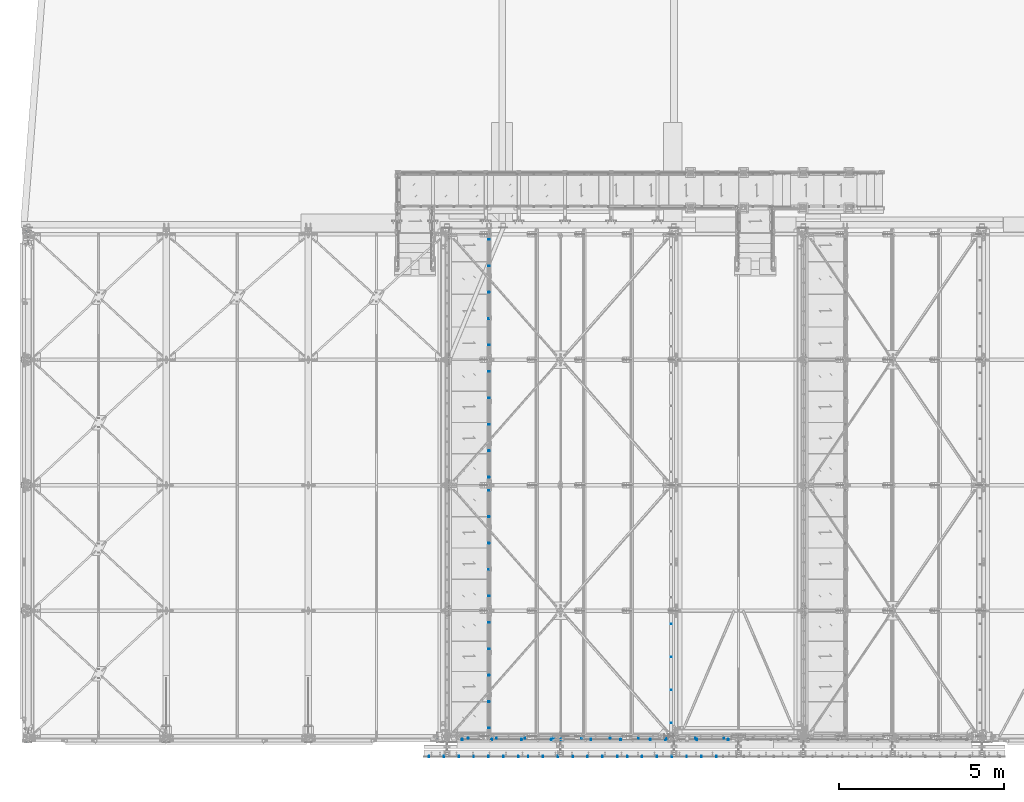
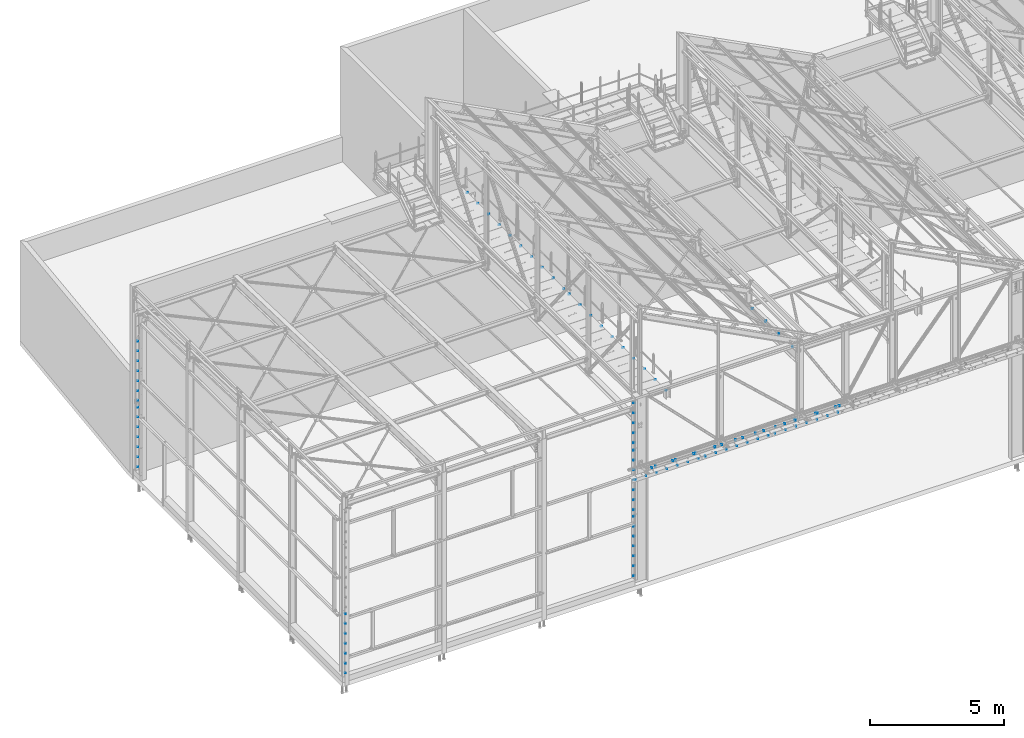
# One storey, part 134 of 362: 16 mechanical fasteners.
"""IFC2X3 building model written with IfcOpenShell, lengths in millimetres."""

from ifc_helpers import new_model, si_unit, frame, frame_2d, origin_with_axes, origin_2d_with_axis, place, context, subcontext, project, spatial, polyline, circle_curve, parameter, trimmed, segment, composite_curve, circle, outline, extrude, source, transform, mapped, material, type_object, element, save


model = new_model("IFC2X3")

# Units and contexts
model_context = context("Model", 3, precision=1e-05, world=origin_with_axes())
body_context = subcontext(model_context, "Body", "Model", "MODEL_VIEW")
ifc_project = project(units=[si_unit("LENGTHUNIT", "METRE", prefix="MILLI"), si_unit("AREAUNIT", "SQUARE_METRE"), si_unit("VOLUMEUNIT", "CUBIC_METRE"), si_unit("MASSUNIT", "GRAM", prefix="KILO"), si_unit("TIMEUNIT", "SECOND"), si_unit("PLANEANGLEUNIT", "RADIAN"), si_unit("SOLIDANGLEUNIT", "STERADIAN"), si_unit("THERMODYNAMICTEMPERATUREUNIT", "DEGREE_CELSIUS"), si_unit("LUMINOUSINTENSITYUNIT", "LUMEN")], contexts=[model_context])

# Site, building, storey
site_placement = place(None, origin_with_axes())
site = spatial("IfcSite", under=ifc_project, at=site_placement, Name="Undefined", CompositionType="ELEMENT")
building_placement = place(site_placement, origin_with_axes())
building = spatial("IfcBuilding", under=site, at=building_placement, Name="Undefined", CompositionType="ELEMENT")
storey_placement = place(building_placement, origin_with_axes())
storey = spatial("IfcBuildingStorey", under=building, at=storey_placement, Name="Undefined", CompositionType="ELEMENT", Elevation=0.0)

# Mechanical fasteners
ifc_material_1 = material(Name="6.8")
mechanical_fastener_type = type_object("IfcMechanicalFastenerType", Name="Bolt assembly")
shared_shape_1 = source(origin_with_axes(), body_context, "Body", "SweptSolid", [
    extrude(circle(Radius=5.0, at=origin_2d_with_axis()), frame((0.0, 0.1, 0.0), z_axis=(0.0, 1.0, 0.0), x_axis=(1.0, 0.0, 0.0)), (0.0, 0.0, 1.0), 4.0),
    extrude(circle(Radius=5.0, at=origin_2d_with_axis()), frame((0.0, 3.9, 0.0), z_axis=(0.0, 1.0, 0.0), x_axis=(1.0, 0.0, 0.0)), (0.0, 0.0, 1.0), 11.0),
    extrude(outline(polyline([(7.50555349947, 0.0), (3.752776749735, 6.50000000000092), (-3.752776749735, 6.50000000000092), (-7.50555349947, 0.0), (-3.752776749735, -6.50000000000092), (3.752776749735, -6.50000000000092), (7.50555349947, 0.0)])), frame((0.0, -5.5, 0.0), z_axis=(0.0, 1.0, 0.0), x_axis=(1.0, 0.0, 0.0)), (0.0, 0.0, 1.0), 5.5),
    extrude(circle(Radius=4.0, at=origin_2d_with_axis()), frame((0.0, 0.0, 0.0), z_axis=(0.0, 1.0, 0.0), x_axis=(1.0, 0.0, 0.0)), (0.0, 0.0, 1.0), 30.0),
    extrude(outline(polyline([(7.50555349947, 0.0), (3.752776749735, 6.50000000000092), (-3.752776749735, 6.50000000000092), (-7.50555349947, 0.0), (-3.752776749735, -6.50000000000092), (3.752776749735, -6.50000000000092), (7.50555349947, 0.0)])), frame((0.0, 14.9, 0.0), z_axis=(0.0, 1.0, 0.0), x_axis=(1.0, 0.0, 0.0)), (0.0, 0.0, 1.0), 6.8),
])
for number, where, z_axis, x_axis, name in (
    (1, (19489.9999850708, -624.0, 5184.99824538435), (-1.0, 0.0, 0.0), (0.0, 0.0, 1.0), "Bolt assembly"),
    (2, (16489.9999910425, -624.0, 5184.99824538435), (-1.0, 0.0, 0.0), (0.0, 0.0, 1.0), "Bolt assembly"),
    (3, (13489.9999970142, -624.0, 5184.99824538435), (-1.0, 0.0, 0.0), (0.0, 0.0, 1.0), "Bolt assembly"),
):
    element("IfcMechanicalFastener", number, at=place(storey_placement, frame(where, z_axis=z_axis, x_axis=x_axis)), inside=storey, type_object=mechanical_fastener_type, material=ifc_material_1, Name=name, NominalDiameter=8.0, NominalLength=30.0, context=body_context, shape_type="MappedRepresentation", body=[
        mapped(shared_shape_1, transform((0.0, 0.0, -1350.0))),
        mapped(shared_shape_1, transform((0.0, 0.0, -900.0))),
        mapped(shared_shape_1, transform((0.0, 0.0, -450.0))),
        mapped(shared_shape_1, transform((0.0, 0.0, 0.0))),
        mapped(shared_shape_1, transform((0.0, 0.0, 450.0))),
        mapped(shared_shape_1, transform((0.0, 0.0, 900.0))),
        mapped(shared_shape_1, transform((0.0, 0.0, 1350.0))),
    ])
ifc_material_2 = material(Name="6.8-SB-ZINGUE")
shared_shape_2 = source(origin_with_axes(), body_context, "Body", "SweptSolid", [
    extrude(circle(Radius=7.0, at=origin_2d_with_axis()), frame((0.0, -9.90049171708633, 0.0), z_axis=(0.0, 1.0, 0.0), x_axis=(1.0, 0.0, 0.0)), (0.0, 0.0, 1.0), 10.0),
    extrude(circle(Radius=7.0, at=origin_2d_with_axis()), frame((0.0, -0.100011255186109, 0.0), z_axis=(0.0, 1.0, 0.0), x_axis=(1.0, 0.0, 0.0)), (0.0, 0.0, 1.0), 7.1),
    extrude(outline(polyline([(10.39230484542, 0.0), (5.19615242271, 9.00000000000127), (-5.19615242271, 9.00000000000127), (-10.39230484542, 0.0), (-5.19615242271, -9.00000000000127), (5.19615242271, -9.00000000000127), (10.39230484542, 0.0)])), frame((0.0, -17.9204917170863, 0.0), z_axis=(0.0, 1.0, 0.0), x_axis=(1.0, 0.0, 0.0)), (0.0, 0.0, 1.0), 7.92),
    extrude(circle(Radius=6.0, at=origin_2d_with_axis()), frame((0.0, -10.0004917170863, 0.0), z_axis=(0.0, 1.0, 0.0), x_axis=(1.0, 0.0, 0.0)), (0.0, 0.0, 1.0), 40.0),
    extrude(outline(polyline([(11.5008173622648, 0.0), (5.7504086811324, 9.96000000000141), (-5.7504086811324, 9.96000000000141), (-11.5008173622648, 0.0), (-5.7504086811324, -9.96000000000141), (5.7504086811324, -9.96000000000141), (11.5008173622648, 0.0)])), frame((0.0, 7.0, 0.0), z_axis=(0.0, 1.0, 0.0), x_axis=(1.0, 0.0, 0.0)), (0.0, 0.0, 1.0), 7.92),
])
mechanical_fastener_1_placement = place(storey_placement, frame((17192.5006366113, -59.9992400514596, 5010.00085614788), z_axis=(-1.0, 0.0, 0.0), x_axis=(0.0, -1.0, 0.0)))
element("IfcMechanicalFastener", 4, at=mechanical_fastener_1_placement, inside=storey, type_object=mechanical_fastener_type, material=ifc_material_2, Name="Bolt assembly", NominalDiameter=12.0, NominalLength=40.0, context=body_context, shape_type="MappedRepresentation", body=[
    mapped(shared_shape_2, transform((0.0, 0.0, -3870.00000000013))),
    mapped(shared_shape_2, transform((0.0, 0.0, -3010.00000000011))),
    mapped(shared_shape_2, transform((0.0, 0.0, -2150.00000000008))),
    mapped(shared_shape_2, transform((0.0, 0.0, -1290.00000000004))),
    mapped(shared_shape_2, transform((0.0, 0.0, -430.000000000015))),
    mapped(shared_shape_2, transform((0.0, 0.0, 430.000000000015))),
    mapped(shared_shape_2, transform((0.0, 0.0, 1290.00000000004))),
    mapped(shared_shape_2, transform((0.0, 0.0, 2150.00000000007))),
    mapped(shared_shape_2, transform((0.0, 0.0, 3010.0000000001))),
    mapped(shared_shape_2, transform((0.0, 0.0, 3870.00000000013))),
])
ifc_material_3 = material(Name="8.8-SB-ZINGUE")
shared_shape_3 = source(origin_with_axes(), body_context, "Body", "SweptSolid", [
    extrude(circle(Radius=7.0, at=origin_2d_with_axis()), frame((0.0, -0.0996314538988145, 0.0), z_axis=(0.0, 1.0, 0.0), x_axis=(1.0, 0.0, 0.0)), (0.0, 0.0, 1.0), 7.1),
    extrude(circle(Radius=7.0, at=origin_2d_with_axis()), frame((0.0, -10.0011535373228, 0.0), z_axis=(0.0, 1.0, 0.0), x_axis=(1.0, 0.0, 0.0)), (0.0, 0.0, 1.0), 10.0),
    extrude(outline(composite_curve([segment(polyline([(7.0, 7.0), (7.0, -7.0)]), True, "CONTINUOUS"), segment(trimmed(circle_curve(frame_2d((0.0, -7.0), x_axis=(1.0, 0.0)), 7.0), [parameter(0.0)], [parameter(3.14159265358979)], False, "PARAMETER"), True, "CONTINUOUS"), segment(polyline([(-7.0, -7.0), (-7.0, 7.0)]), True, "CONTINUOUS"), segment(trimmed(circle_curve(frame_2d((0.0, 7.0), x_axis=(-1.0, 0.0)), 7.0), [parameter(0.0)], [parameter(3.14159265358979)], False, "PARAMETER"), True, "DISCONTINUOUS")], self_intersect=False)), frame((0.0, -12.9000010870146, 0.0), z_axis=(0.0, 1.0, 0.0), x_axis=(1.0, 0.0, 0.0)), (0.0, 0.0, 1.0), 3.0),
    extrude(outline(polyline([(10.39230484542, 0.0), (5.19615242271, 9.00000000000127), (-5.19615242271, 9.00000000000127), (-10.39230484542, 0.0), (-5.19615242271, -9.00000000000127), (5.19615242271, -9.00000000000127), (10.39230484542, 0.0)])), frame((0.0, -24.8800010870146, 0.0), z_axis=(0.0, 1.0, 0.0), x_axis=(1.0, 0.0, 0.0)), (0.0, 0.0, 1.0), 7.92),
    extrude(circle(Radius=6.0, at=origin_2d_with_axis()), frame((0.0, -16.9600010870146, 0.0), z_axis=(0.0, 1.0, 0.0), x_axis=(1.0, 0.0, 0.0)), (0.0, 0.0, 1.0), 40.0),
    extrude(circle(Radius=10.8, at=origin_2d_with_axis()), frame((0.0, -16.9600010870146, 0.0), z_axis=(0.0, 1.0, 0.0), x_axis=(1.0, 0.0, 0.0)), (0.0, 0.0, 1.0), 3.96),
    extrude(outline(polyline([(11.5008173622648, 0.0), (5.7504086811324, 9.96000000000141), (-5.7504086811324, 9.96000000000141), (-11.5008173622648, 0.0), (-5.7504086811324, -9.96000000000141), (5.7504086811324, -9.96000000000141), (11.5008173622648, 0.0)])), frame((0.0, 7.00036854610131, 0.0), z_axis=(0.0, 1.0, 0.0), x_axis=(1.0, 0.0, 0.0)), (0.0, 0.0, 1.0), 7.92),
])
mechanical_fastener_2_placement = place(storey_placement, frame((20247.4999999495, -100.000000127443, 5050.00085614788), z_axis=(1.0, 0.0, 0.0), x_axis=(0.0, 0.0, -1.0)))
element("IfcMechanicalFastener", 5, at=mechanical_fastener_2_placement, inside=storey, type_object=mechanical_fastener_type, material=ifc_material_3, Name="Bolt assembly", NominalDiameter=12.0, NominalLength=40.0, context=body_context, shape_type="MappedRepresentation", body=[
    mapped(shared_shape_3, transform((0.0, 0.0, -950.0))),
    mapped(shared_shape_3, transform((0.0, 0.0, 0.0))),
    mapped(shared_shape_3, transform((0.0, 0.0, 950.0))),
])
shared_shape_4 = source(origin_with_axes(), body_context, "Body", "SweptSolid", [
    extrude(circle(Radius=7.0, at=origin_2d_with_axis()), frame((0.0, -0.0990448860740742, 0.0), z_axis=(0.0, 1.0, 0.0), x_axis=(1.0, 0.0, 0.0)), (0.0, 0.0, 1.0), 7.1),
    extrude(circle(Radius=7.0, at=origin_2d_with_axis()), frame((0.0, -10.0005669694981, 0.0), z_axis=(0.0, 1.0, 0.0), x_axis=(1.0, 0.0, 0.0)), (0.0, 0.0, 1.0), 10.0),
    extrude(outline(composite_curve([segment(polyline([(7.0, 7.0), (7.0, -7.0)]), True, "CONTINUOUS"), segment(trimmed(circle_curve(frame_2d((0.0, -7.0), x_axis=(1.0, 0.0)), 7.0), [parameter(0.0)], [parameter(3.14159265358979)], False, "PARAMETER"), True, "CONTINUOUS"), segment(polyline([(-7.0, -7.0), (-7.0, 7.0)]), True, "CONTINUOUS"), segment(trimmed(circle_curve(frame_2d((0.0, 7.0), x_axis=(-1.0, 0.0)), 7.0), [parameter(0.0)], [parameter(3.14159265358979)], False, "PARAMETER"), True, "DISCONTINUOUS")], self_intersect=False)), frame((0.0, -12.9000010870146, 0.0), z_axis=(0.0, 1.0, 0.0), x_axis=(1.0, 0.0, 0.0)), (0.0, 0.0, 1.0), 3.0),
    extrude(outline(polyline([(10.39230484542, 0.0), (5.19615242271, 9.00000000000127), (-5.19615242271, 9.00000000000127), (-10.39230484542, 0.0), (-5.19615242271, -9.00000000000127), (5.19615242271, -9.00000000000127), (10.39230484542, 0.0)])), frame((0.0, -24.8800010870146, 0.0), z_axis=(0.0, 1.0, 0.0), x_axis=(1.0, 0.0, 0.0)), (0.0, 0.0, 1.0), 7.92),
    extrude(circle(Radius=6.0, at=origin_2d_with_axis()), frame((0.0, -16.9600010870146, 0.0), z_axis=(0.0, 1.0, 0.0), x_axis=(1.0, 0.0, 0.0)), (0.0, 0.0, 1.0), 40.0),
    extrude(circle(Radius=10.8, at=origin_2d_with_axis()), frame((0.0, -16.9600010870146, 0.0), z_axis=(0.0, 1.0, 0.0), x_axis=(1.0, 0.0, 0.0)), (0.0, 0.0, 1.0), 3.96),
    extrude(outline(polyline([(11.5008173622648, 0.0), (5.7504086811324, 9.96000000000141), (-5.7504086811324, 9.96000000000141), (-11.5008173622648, 0.0), (-5.7504086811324, -9.96000000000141), (5.7504086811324, -9.96000000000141), (11.5008173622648, 0.0)])), frame((0.0, 7.00095511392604, 0.0), z_axis=(0.0, 1.0, 0.0), x_axis=(1.0, 0.0, 0.0)), (0.0, 0.0, 1.0), 7.92),
])
mechanical_fastener_3_placement = place(storey_placement, frame((17489.999999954, -99.9999994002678, 5050.00085614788), z_axis=(1.0, 0.0, 0.0), x_axis=(0.0, 0.0, -1.0)))
element("IfcMechanicalFastener", 6, at=mechanical_fastener_3_placement, inside=storey, type_object=mechanical_fastener_type, material=ifc_material_3, Name="Bolt assembly", NominalDiameter=12.0, NominalLength=40.0, context=body_context, shape_type="MappedRepresentation", body=[
    mapped(shared_shape_4, transform((0.0, 0.0, -1350.0))),
    mapped(shared_shape_4, transform((0.0, 0.0, -450.0))),
    mapped(shared_shape_4, transform((0.0, 0.0, 450.0))),
    mapped(shared_shape_4, transform((0.0, 0.0, 1350.0))),
])
shared_shape_5 = source(origin_with_axes(), body_context, "Body", "SweptSolid", [
    extrude(circle(Radius=7.0, at=origin_2d_with_axis()), frame((0.0, -0.0984788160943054, 0.0), z_axis=(0.0, 1.0, 0.0), x_axis=(1.0, 0.0, 0.0)), (0.0, 0.0, 1.0), 7.1),
    extrude(circle(Radius=7.0, at=origin_2d_with_axis()), frame((0.0, -10.0000010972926, 0.0), z_axis=(0.0, 1.0, 0.0), x_axis=(1.0, 0.0, 0.0)), (0.0, 0.0, 1.0), 10.0),
    extrude(outline(composite_curve([segment(polyline([(7.0, 7.0), (7.0, -7.0)]), True, "CONTINUOUS"), segment(trimmed(circle_curve(frame_2d((0.0, -7.0), x_axis=(1.0, 0.0)), 7.0), [parameter(0.0)], [parameter(3.14159265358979)], False, "PARAMETER"), True, "CONTINUOUS"), segment(polyline([(-7.0, -7.0), (-7.0, 7.0)]), True, "CONTINUOUS"), segment(trimmed(circle_curve(frame_2d((0.0, 7.0), x_axis=(-1.0, 0.0)), 7.0), [parameter(0.0)], [parameter(3.14159265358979)], False, "PARAMETER"), True, "DISCONTINUOUS")], self_intersect=False)), frame((0.0, -12.9000010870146, 0.0), z_axis=(0.0, 1.0, 0.0), x_axis=(1.0, 0.0, 0.0)), (0.0, 0.0, 1.0), 3.0),
    extrude(outline(polyline([(10.39230484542, 0.0), (5.19615242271, 9.00000000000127), (-5.19615242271, 9.00000000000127), (-10.39230484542, 0.0), (-5.19615242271, -9.00000000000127), (5.19615242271, -9.00000000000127), (10.39230484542, 0.0)])), frame((0.0, -24.8800010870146, 0.0), z_axis=(0.0, 1.0, 0.0), x_axis=(1.0, 0.0, 0.0)), (0.0, 0.0, 1.0), 7.92),
    extrude(circle(Radius=6.0, at=origin_2d_with_axis()), frame((0.0, -16.9600010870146, 0.0), z_axis=(0.0, 1.0, 0.0), x_axis=(1.0, 0.0, 0.0)), (0.0, 0.0, 1.0), 40.0),
    extrude(circle(Radius=10.8, at=origin_2d_with_axis()), frame((0.0, -16.9600010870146, 0.0), z_axis=(0.0, 1.0, 0.0), x_axis=(1.0, 0.0, 0.0)), (0.0, 0.0, 1.0), 3.96),
    extrude(outline(polyline([(11.5008173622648, 0.0), (5.7504086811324, 9.96000000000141), (-5.7504086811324, 9.96000000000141), (-11.5008173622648, 0.0), (-5.7504086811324, -9.96000000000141), (5.7504086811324, -9.96000000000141), (11.5008173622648, 0.0)])), frame((0.0, 7.00152118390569, 0.0), z_axis=(0.0, 1.0, 0.0), x_axis=(1.0, 0.0, 0.0)), (0.0, 0.0, 1.0), 7.92),
])
mechanical_fastener_4_placement = place(storey_placement, frame((14489.9999999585, -99.9999964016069, 5050.00085614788), z_axis=(1.0, 0.0, 0.0), x_axis=(0.0, 0.0, -1.0)))
element("IfcMechanicalFastener", 7, at=mechanical_fastener_4_placement, inside=storey, type_object=mechanical_fastener_type, material=ifc_material_3, Name="Bolt assembly", NominalDiameter=12.0, NominalLength=40.0, context=body_context, shape_type="MappedRepresentation", body=[
    mapped(shared_shape_5, transform((0.0, 0.0, -1350.0))),
    mapped(shared_shape_5, transform((0.0, 0.0, -450.0))),
    mapped(shared_shape_5, transform((0.0, 0.0, 450.0))),
    mapped(shared_shape_5, transform((0.0, 0.0, 1350.0))),
])
shared_shape_6 = source(origin_with_axes(), body_context, "Body", "SweptSolid", [
    extrude(circle(Radius=7.0, at=origin_2d_with_axis()), frame((0.0, -0.0998569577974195, 0.0), z_axis=(0.0, 1.0, 0.0), x_axis=(1.0, 0.0, 0.0)), (0.0, 0.0, 1.0), 19.1),
    extrude(circle(Radius=7.0, at=origin_2d_with_axis()), frame((0.0, -4.90000000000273, 0.0), z_axis=(0.0, 1.0, 0.0), x_axis=(1.0, 0.0, 0.0)), (0.0, 0.0, 1.0), 5.0),
    extrude(outline(polyline([(10.39230484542, 0.0), (5.19615242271, 9.00000000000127), (-5.19615242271, 9.00000000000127), (-10.39230484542, 0.0), (-5.19615242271, -9.00000000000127), (5.19615242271, -9.00000000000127), (10.39230484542, 0.0)])), frame((0.0, -12.9200004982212, 0.0), z_axis=(0.0, 1.0, 0.0), x_axis=(1.0, 0.0, 0.0)), (0.0, 0.0, 1.0), 7.92),
    extrude(circle(Radius=6.0, at=origin_2d_with_axis()), frame((0.0, -5.00000000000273, 0.0), z_axis=(0.0, 1.0, 0.0), x_axis=(1.0, 0.0, 0.0)), (0.0, 0.0, 1.0), 40.0),
    extrude(outline(polyline([(11.5008173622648, 0.0), (5.7504086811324, 9.96000000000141), (-5.7504086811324, 9.96000000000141), (-11.5008173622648, 0.0), (-5.7504086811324, -9.96000000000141), (5.7504086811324, -9.96000000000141), (11.5008173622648, 0.0)])), frame((0.0, 19.000095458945, 0.0), z_axis=(0.0, 1.0, 0.0), x_axis=(1.0, 0.0, 0.0)), (0.0, 0.0, 1.0), 7.92),
])
mechanical_fastener_5_placement = place(storey_placement, frame((12399.0000008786, -80.0000056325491, 7340.00001636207), z_axis=(0.0, 0.0, -1.0), x_axis=(0.0, -1.0, 0.0)))
element("IfcMechanicalFastener", 8, at=mechanical_fastener_5_placement, inside=storey, type_object=mechanical_fastener_type, material=ifc_material_3, Name="Bolt assembly", NominalDiameter=12.0, NominalLength=40.0, context=body_context, shape_type="MappedRepresentation", body=[
    mapped(shared_shape_6, transform((0.0, 0.0, -900.0))),
    mapped(shared_shape_6, transform((0.0, 0.0, -450.0))),
    mapped(shared_shape_6, transform((0.0, 0.0, 0.0))),
    mapped(shared_shape_6, transform((0.0, 0.0, 450.0))),
    mapped(shared_shape_6, transform((0.0, 0.0, 900.0))),
])
shared_shape_7 = source(origin_with_axes(), body_context, "Body", "SweptSolid", [
    extrude(circle(Radius=7.0, at=origin_2d_with_axis()), frame((0.0, -0.0992047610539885, 0.0), z_axis=(0.0, 1.0, 0.0), x_axis=(1.0, 0.0, 0.0)), (0.0, 0.0, 1.0), 19.1),
    extrude(circle(Radius=7.0, at=origin_2d_with_axis()), frame((0.0, -4.90000000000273, 0.0), z_axis=(0.0, 1.0, 0.0), x_axis=(1.0, 0.0, 0.0)), (0.0, 0.0, 1.0), 5.0),
    extrude(outline(polyline([(10.39230484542, 0.0), (5.19615242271, 9.00000000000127), (-5.19615242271, 9.00000000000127), (-10.39230484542, 0.0), (-5.19615242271, -9.00000000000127), (5.19615242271, -9.00000000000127), (10.39230484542, 0.0)])), frame((0.0, -12.9200004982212, 0.0), z_axis=(0.0, 1.0, 0.0), x_axis=(1.0, 0.0, 0.0)), (0.0, 0.0, 1.0), 7.92),
    extrude(circle(Radius=6.0, at=origin_2d_with_axis()), frame((0.0, -5.00000000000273, 0.0), z_axis=(0.0, 1.0, 0.0), x_axis=(1.0, 0.0, 0.0)), (0.0, 0.0, 1.0), 40.0),
    extrude(outline(polyline([(11.5008173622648, 0.0), (5.7504086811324, 9.96000000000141), (-5.7504086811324, 9.96000000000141), (-11.5008173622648, 0.0), (-5.7504086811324, -9.96000000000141), (5.7504086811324, -9.96000000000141), (11.5008173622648, 0.0)])), frame((0.0, 19.000795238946, 0.0), z_axis=(0.0, 1.0, 0.0), x_axis=(1.0, 0.0, 0.0)), (0.0, 0.0, 1.0), 7.92),
])
mechanical_fastener_6_placement = place(storey_placement, frame((12399.0000008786, -79.9999994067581, 4750.00001552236), z_axis=(0.0, 0.0, -1.0), x_axis=(0.0, -1.0, 0.0)))
element("IfcMechanicalFastener", 9, at=mechanical_fastener_6_placement, inside=storey, type_object=mechanical_fastener_type, material=ifc_material_3, Name="Bolt assembly", NominalDiameter=12.0, NominalLength=40.0, context=body_context, shape_type="MappedRepresentation", body=[
    mapped(shared_shape_7, transform((0.0, 0.0, -1350.0))),
    mapped(shared_shape_7, transform((0.0, 0.0, -900.0))),
    mapped(shared_shape_7, transform((0.0, 0.0, -450.0))),
    mapped(shared_shape_7, transform((0.0, 0.0, 0.0))),
    mapped(shared_shape_7, transform((0.0, 0.0, 450.0))),
    mapped(shared_shape_7, transform((0.0, 0.0, 900.0))),
    mapped(shared_shape_7, transform((0.0, 0.0, 1350.0))),
])
shared_shape_8 = source(origin_with_axes(), body_context, "Body", "SweptSolid", [
    extrude(circle(Radius=7.0, at=origin_2d_with_axis()), frame((0.0, -0.0982394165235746, 0.0), z_axis=(0.0, 1.0, 0.0), x_axis=(1.0, 0.0, 0.0)), (0.0, 0.0, 1.0), 19.1),
    extrude(circle(Radius=7.0, at=origin_2d_with_axis()), frame((0.0, -4.90000000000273, 0.0), z_axis=(0.0, 1.0, 0.0), x_axis=(1.0, 0.0, 0.0)), (0.0, 0.0, 1.0), 5.0),
    extrude(outline(polyline([(10.39230484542, 0.0), (5.19615242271, 9.00000000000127), (-5.19615242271, 9.00000000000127), (-10.39230484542, 0.0), (-5.19615242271, -9.00000000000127), (5.19615242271, -9.00000000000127), (10.39230484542, 0.0)])), frame((0.0, -12.9200004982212, 0.0), z_axis=(0.0, 1.0, 0.0), x_axis=(1.0, 0.0, 0.0)), (0.0, 0.0, 1.0), 7.92),
    extrude(circle(Radius=6.0, at=origin_2d_with_axis()), frame((0.0, -5.00000000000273, 0.0), z_axis=(0.0, 1.0, 0.0), x_axis=(1.0, 0.0, 0.0)), (0.0, 0.0, 1.0), 40.0),
    extrude(outline(polyline([(11.5008173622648, 0.0), (5.7504086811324, 9.96000000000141), (-5.7504086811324, 9.96000000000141), (-11.5008173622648, 0.0), (-5.7504086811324, -9.96000000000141), (5.7504086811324, -9.96000000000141), (11.5008173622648, 0.0)])), frame((0.0, 19.0017762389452, 0.0), z_axis=(0.0, 1.0, 0.0), x_axis=(1.0, 0.0, 0.0)), (0.0, 0.0, 1.0), 7.92),
])
mechanical_fastener_7_placement = place(storey_placement, frame((12399.0000008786, -79.9999993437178, 1750.00001560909), z_axis=(0.0, 0.0, -1.0), x_axis=(0.0, -1.0, 0.0)))
element("IfcMechanicalFastener", 10, at=mechanical_fastener_7_placement, inside=storey, type_object=mechanical_fastener_type, material=ifc_material_3, Name="Bolt assembly", NominalDiameter=12.0, NominalLength=40.0, context=body_context, shape_type="MappedRepresentation", body=[
    mapped(shared_shape_8, transform((0.0, 0.0, -1350.0))),
    mapped(shared_shape_8, transform((0.0, 0.0, -900.0))),
    mapped(shared_shape_8, transform((0.0, 0.0, -450.0))),
    mapped(shared_shape_8, transform((0.0, 0.0, 0.0))),
    mapped(shared_shape_8, transform((0.0, 0.0, 450.0))),
    mapped(shared_shape_8, transform((0.0, 0.0, 900.0))),
    mapped(shared_shape_8, transform((0.0, 0.0, 1350.0))),
])
shared_shape_9 = source(origin_with_axes(), body_context, "Body", "SweptSolid", [
    extrude(circle(Radius=7.0, at=origin_2d_with_axis()), frame((0.0, -0.100011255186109, 0.0), z_axis=(0.0, 1.0, 0.0), x_axis=(1.0, 0.0, 0.0)), (0.0, 0.0, 1.0), 13.6),
    extrude(circle(Radius=7.0, at=origin_2d_with_axis()), frame((0.0, -4.90000000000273, 0.0), z_axis=(0.0, 1.0, 0.0), x_axis=(1.0, 0.0, 0.0)), (0.0, 0.0, 1.0), 5.0),
    extrude(outline(polyline([(10.39230484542, 0.0), (5.19615242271, 9.00000000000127), (-5.19615242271, 9.00000000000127), (-10.39230484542, 0.0), (-5.19615242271, -9.00000000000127), (5.19615242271, -9.00000000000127), (10.39230484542, 0.0)])), frame((0.0, -12.9200004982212, 0.0), z_axis=(0.0, 1.0, 0.0), x_axis=(1.0, 0.0, 0.0)), (0.0, 0.0, 1.0), 7.92),
    extrude(circle(Radius=6.0, at=origin_2d_with_axis()), frame((0.0, -5.00000000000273, 0.0), z_axis=(0.0, 1.0, 0.0), x_axis=(1.0, 0.0, 0.0)), (0.0, 0.0, 1.0), 40.0),
    extrude(outline(polyline([(11.5008173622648, 0.0), (5.7504086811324, 9.96000000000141), (-5.7504086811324, 9.96000000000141), (-11.5008173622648, 0.0), (-5.7504086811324, -9.96000000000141), (5.7504086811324, -9.96000000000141), (11.5008173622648, 0.0)])), frame((0.0, 13.4999999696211, 0.0), z_axis=(0.0, 1.0, 0.0), x_axis=(1.0, 0.0, 0.0)), (0.0, 0.0, 1.0), 7.92),
])
for number, where, z_axis, x_axis, name in (
    (11, (-59.9999993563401, 15276.500002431, 4750.00001526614), (0.0, 0.0, -1.0), (-1.0, 0.0, 0.0), "Bolt assembly"),
    (12, (-59.999999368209, 15276.500002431, 1749.9999998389), (0.0, 0.0, -1.0), (-1.0, 0.0, 0.0), "Bolt assembly"),
):
    element("IfcMechanicalFastener", number, at=place(storey_placement, frame(where, z_axis=z_axis, x_axis=x_axis)), inside=storey, type_object=mechanical_fastener_type, material=ifc_material_3, Name=name, NominalDiameter=12.0, NominalLength=40.0, context=body_context, shape_type="MappedRepresentation", body=[
        mapped(shared_shape_9, transform((0.0, 0.0, -1350.0))),
        mapped(shared_shape_9, transform((0.0, 0.0, -900.0))),
        mapped(shared_shape_9, transform((0.0, 0.0, -450.0))),
        mapped(shared_shape_9, transform((0.0, 0.0, 0.0))),
        mapped(shared_shape_9, transform((0.0, 0.0, 450.0))),
        mapped(shared_shape_9, transform((0.0, 0.0, 900.0))),
        mapped(shared_shape_9, transform((0.0, 0.0, 1350.0))),
    ])
shared_shape_10 = source(origin_with_axes(), body_context, "Body", "SweptSolid", [
    extrude(circle(Radius=7.0, at=origin_2d_with_axis()), frame((0.0, -0.100011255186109, 0.0), z_axis=(0.0, 1.0, 0.0), x_axis=(1.0, 0.0, 0.0)), (0.0, 0.0, 1.0), 13.6),
    extrude(circle(Radius=7.0, at=origin_2d_with_axis()), frame((0.0, -4.90461958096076, 0.0), z_axis=(0.0, 1.0, 0.0), x_axis=(1.0, 0.0, 0.0)), (0.0, 0.0, 1.0), 5.0),
    extrude(outline(polyline([(10.39230484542, 0.0), (5.19615242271, 9.00000000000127), (-5.19615242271, 9.00000000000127), (-10.39230484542, 0.0), (-5.19615242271, -9.00000000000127), (5.19615242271, -9.00000000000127), (10.39230484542, 0.0)])), frame((0.0, -12.9246195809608, 0.0), z_axis=(0.0, 1.0, 0.0), x_axis=(1.0, 0.0, 0.0)), (0.0, 0.0, 1.0), 7.92),
    extrude(circle(Radius=6.0, at=origin_2d_with_axis()), frame((0.0, -5.00461958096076, 0.0), z_axis=(0.0, 1.0, 0.0), x_axis=(1.0, 0.0, 0.0)), (0.0, 0.0, 1.0), 40.0),
    extrude(outline(polyline([(11.5008173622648, 0.0), (5.7504086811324, 9.96000000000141), (-5.7504086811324, 9.96000000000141), (-11.5008173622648, 0.0), (-5.7504086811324, -9.96000000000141), (5.7504086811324, -9.96000000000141), (11.5008173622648, 0.0)])), frame((0.0, 13.4999999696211, 0.0), z_axis=(0.0, 1.0, 0.0), x_axis=(1.0, 0.0, 0.0)), (0.0, 0.0, 1.0), 7.92),
])
mechanical_fastener_8_placement = place(storey_placement, frame((-59.9998851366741, -166.499999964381, 1750.00000000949), z_axis=(0.0, 0.0, 1.0), x_axis=(-1.0, 0.0, 0.0)))
element("IfcMechanicalFastener", 13, at=mechanical_fastener_8_placement, inside=storey, type_object=mechanical_fastener_type, material=ifc_material_3, Name="Bolt assembly", NominalDiameter=12.0, NominalLength=40.0, context=body_context, shape_type="MappedRepresentation", body=[
    mapped(shared_shape_10, transform((0.0, 0.0, -1350.0))),
    mapped(shared_shape_10, transform((0.0, 0.0, -900.0))),
    mapped(shared_shape_10, transform((0.0, 0.0, -450.0))),
    mapped(shared_shape_10, transform((0.0, 0.0, 0.0))),
    mapped(shared_shape_10, transform((0.0, 0.0, 450.0))),
    mapped(shared_shape_10, transform((0.0, 0.0, 900.0))),
    mapped(shared_shape_10, transform((0.0, 0.0, 1350.0))),
])
ifc_material_4 = material(Name="#_SB-8.8-ZINGUE")
shared_shape_11 = source(origin_with_axes(), body_context, "Body", "SweptSolid", [
    extrude(circle(Radius=7.0, at=origin_2d_with_axis()), frame((0.0, -0.100011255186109, 0.0), z_axis=(0.0, 1.0, 0.0), x_axis=(1.0, 0.0, 0.0)), (0.0, 0.0, 1.0), 17.3),
    extrude(outline(composite_curve([segment(polyline([(-7.0, 7.0), (7.0, 7.0)]), True, "CONTINUOUS"), segment(trimmed(circle_curve(frame_2d((7.0, 0.0), x_axis=(0.0, 1.0)), 7.0), [parameter(0.0)], [parameter(3.14159265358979)], False, "PARAMETER"), True, "CONTINUOUS"), segment(polyline([(7.0, -7.0), (-7.0, -7.0)]), True, "CONTINUOUS"), segment(trimmed(circle_curve(frame_2d((-7.0, 0.0), x_axis=(0.0, -1.0)), 7.0), [parameter(0.0)], [parameter(3.14159265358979)], False, "PARAMETER"), True, "DISCONTINUOUS")], self_intersect=False)), frame((0.0, -1.90048839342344, 0.0), z_axis=(0.0, 1.0, 0.0), x_axis=(1.0, 0.0, 0.0)), (0.0, 0.0, 1.0), 2.0),
    extrude(outline(polyline([(10.39230484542, 0.0), (5.19615242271, 9.00000000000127), (-5.19615242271, 9.00000000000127), (-10.39230484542, 0.0), (-5.19615242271, -9.00000000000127), (5.19615242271, -9.00000000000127), (10.39230484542, 0.0)])), frame((0.0, -13.8804883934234, 0.0), z_axis=(0.0, 1.0, 0.0), x_axis=(1.0, 0.0, 0.0)), (0.0, 0.0, 1.0), 7.92),
    extrude(circle(Radius=6.0, at=origin_2d_with_axis()), frame((0.0, -5.96048839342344, 0.0), z_axis=(0.0, 1.0, 0.0), x_axis=(1.0, 0.0, 0.0)), (0.0, 0.0, 1.0), 40.0),
    extrude(circle(Radius=10.8, at=origin_2d_with_axis()), frame((0.0, -5.96048839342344, 0.0), z_axis=(0.0, 1.0, 0.0), x_axis=(1.0, 0.0, 0.0)), (0.0, 0.0, 1.0), 3.96),
    extrude(outline(polyline([(11.5008173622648, 0.0), (5.7504086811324, 9.96000000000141), (-5.7504086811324, 9.96000000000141), (-11.5008173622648, 0.0), (-5.7504086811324, -9.96000000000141), (5.7504086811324, -9.96000000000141), (11.5008173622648, 0.0)])), frame((0.0, 17.2000007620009, 0.0), z_axis=(0.0, 1.0, 0.0), x_axis=(1.0, 0.0, 0.0)), (0.0, 0.0, 1.0), 7.92),
])
mechanical_fastener_9_placement = place(storey_placement, frame((19475.0, 1899.68552403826, 7990.29997745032), z_axis=(0.0, -0.999506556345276, 0.031410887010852), x_axis=(-1.0, 0.0, 0.0)))
element("IfcMechanicalFastener", 14, at=mechanical_fastener_9_placement, inside=storey, type_object=mechanical_fastener_type, material=ifc_material_4, Name="Bolt assembly", NominalDiameter=12.0, NominalLength=40.0, context=body_context, shape_type="MappedRepresentation", body=[
    mapped(shared_shape_11, transform((0.0, 6.70297595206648e-10, -1499.99999999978))),
    mapped(shared_shape_11, transform((0.0, 2.2373569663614e-10, -499.999999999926))),
    mapped(shared_shape_11, transform((0.0, -2.2373569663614e-10, 499.999999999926))),
    mapped(shared_shape_11, transform((0.0, -6.71207089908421e-10, 1499.99999999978))),
])
shared_shape_12 = source(origin_with_axes(), body_context, "Body", "SweptSolid", [
    extrude(circle(Radius=7.0, at=origin_2d_with_axis()), frame((0.0, -5.00000000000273, 0.0), z_axis=(0.0, 1.0, 0.0), x_axis=(1.0, 0.0, 0.0)), (0.0, 0.0, 1.0), 5.1),
    extrude(outline(polyline([(10.39230484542, 0.0), (5.19615242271, 9.00000000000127), (-5.19615242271, 9.00000000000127), (-10.39230484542, 0.0), (-5.19615242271, -9.00000000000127), (5.19615242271, -9.00000000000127), (10.39230484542, 0.0)])), frame((0.0, -12.9200004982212, 0.0), z_axis=(0.0, 1.0, 0.0), x_axis=(1.0, 0.0, 0.0)), (0.0, 0.0, 1.0), 7.92),
    extrude(circle(Radius=6.0, at=origin_2d_with_axis()), frame((0.0, -5.00000000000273, 0.0), z_axis=(0.0, 1.0, 0.0), x_axis=(1.0, 0.0, 0.0)), (0.0, 0.0, 1.0), 30.0),
    extrude(outline(polyline([(11.5008173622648, 0.0), (5.7504086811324, 9.96000000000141), (-5.7504086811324, 9.96000000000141), (-11.5008173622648, 0.0), (-5.7504086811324, -9.96000000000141), (5.7504086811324, -9.96000000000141), (11.5008173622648, 0.0)])), frame((0.0, 0.0, 0.0), z_axis=(0.0, 1.0, 0.0), x_axis=(1.0, 0.0, 0.0)), (0.0, 0.0, 1.0), 7.92),
])
for number, where, z_axis, x_axis, name in (
    (15, (13946.4998855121, 3845.00004469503, 8070.00000000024), (0.0, 1.0, 0.0), (0.0, 0.0, 1.0), "Bolt assembly"),
    (16, (13946.4998855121, 11442.5000449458, 8070.00000000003), (0.0, 1.0, 0.0), (0.0, 0.0, 1.0), "Bolt assembly"),
):
    element("IfcMechanicalFastener", number, at=place(storey_placement, frame(where, z_axis=z_axis, x_axis=x_axis)), inside=storey, type_object=mechanical_fastener_type, material=ifc_material_3, Name=name, NominalDiameter=12.0, NominalLength=30.0, context=body_context, shape_type="MappedRepresentation", body=[
        mapped(shared_shape_12, transform((0.0, 0.0, -3600.0))),
        mapped(shared_shape_12, transform((0.0, 0.0, -2800.0))),
        mapped(shared_shape_12, transform((0.0, 0.0, -2000.0))),
        mapped(shared_shape_12, transform((0.0, 0.0, -1200.0))),
        mapped(shared_shape_12, transform((0.0, 0.0, -400.0))),
        mapped(shared_shape_12, transform((0.0, 0.0, 400.0))),
        mapped(shared_shape_12, transform((0.0, 0.0, 1200.0))),
        mapped(shared_shape_12, transform((0.0, 0.0, 2000.0))),
        mapped(shared_shape_12, transform((0.0, 0.0, 2800.0))),
        mapped(shared_shape_12, transform((0.0, 0.0, 3600.0))),
    ])

save(model, "model.ifc")
